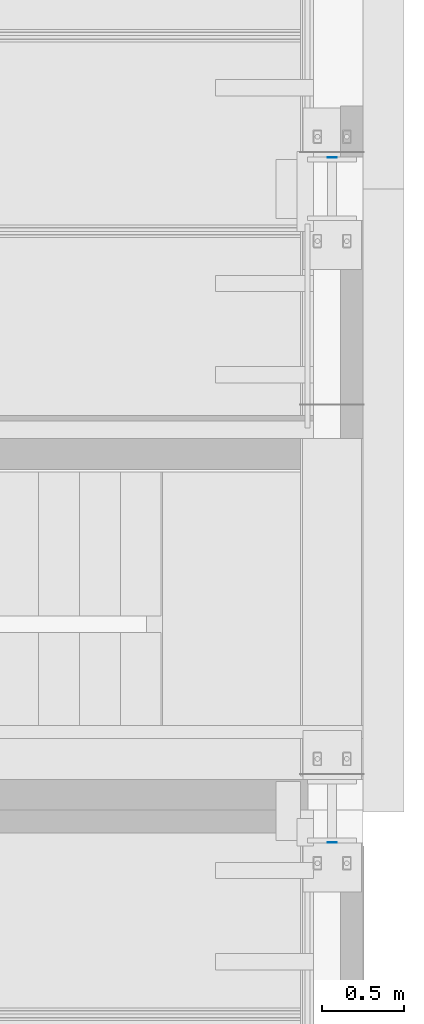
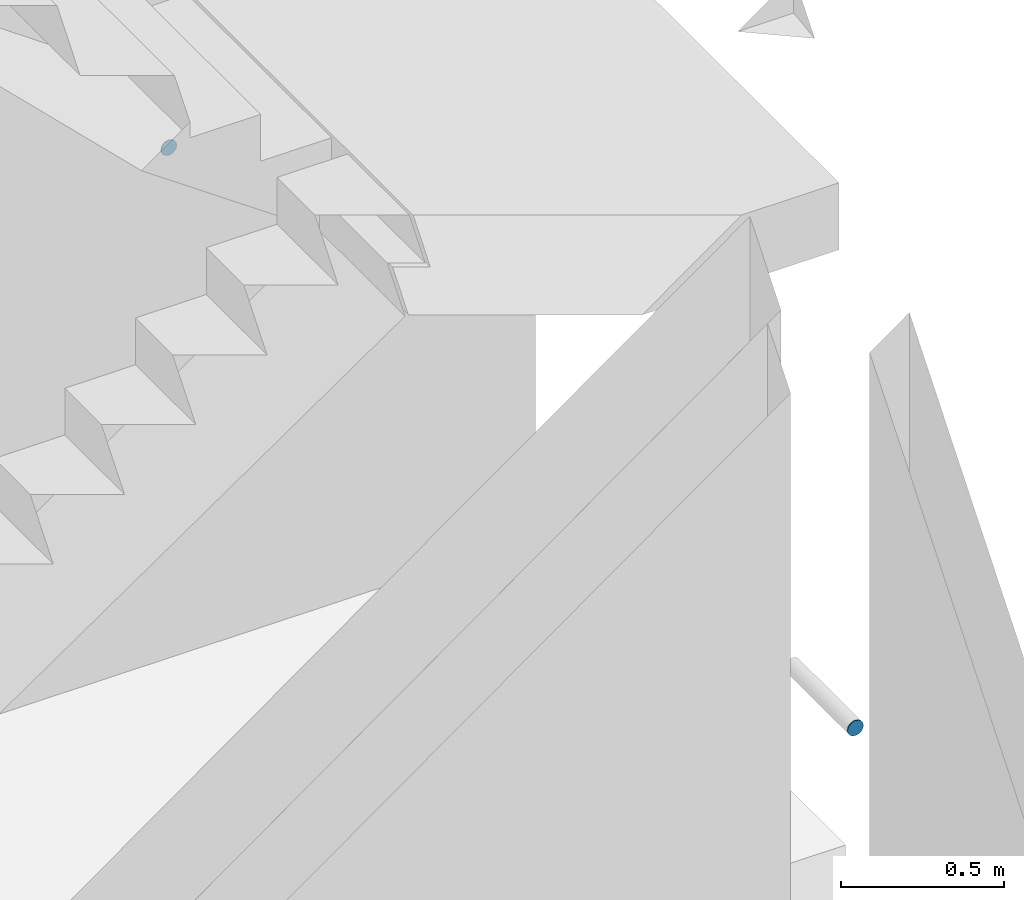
# One storey, part 60 of 230: 2 beams.
"""IFC4X3_ADD2 building model written with IfcOpenShell, lengths in millimetres."""

import ifcopenshell
import ifcopenshell.guid

model = None  # the IFC model being written
_history = None  # IfcOwnerHistory: only IFC2X3 demands one
_inside = {}  # id of a spatial element -> (the spatial element, [elements in it])
_under = {}  # id of a project, library or spatial element -> (it, [spatial elements below it])
_declared = {}  # id of a project -> (the project, [libraries it declares])
_typed = {}  # id of a type object -> (the type object, [elements of that type])
_made_of = {}  # id of a material, layer set ... -> (it, [elements and type objects made of it])


def new_model(schema):
    """Start an empty IFC model of exactly this schema.

    Asked for "IFC4X3", IfcOpenShell would pick the latest addendum, in which some entities
    have other attributes; the version numbers below select the first issue.
    IFC2X3 requires an IfcOwnerHistory on every rooted entity: one is made here for all.
    """
    global model, _history
    if schema == "IFC4X3":
        model = ifcopenshell.file(schema_version=(4, 3, 0, 0))
    else:
        model = ifcopenshell.file(schema=schema)
    _inside.clear()
    _under.clear()
    _declared.clear()
    _typed.clear()
    _made_of.clear()
    _history = None
    if model.schema == "IFC2X3":
        org = make("IfcOrganization", Name="unknown")
        user = make(
            "IfcPersonAndOrganization",
            ThePerson=make("IfcPerson", FamilyName="unknown"),
            TheOrganization=org,
        )
        app = make(
            "IfcApplication",
            ApplicationDeveloper=org,
            Version="unknown",
            ApplicationFullName="unknown",
            ApplicationIdentifier="unknown",
        )
        _history = make(
            "IfcOwnerHistory",
            OwningUser=user,
            OwningApplication=app,
            ChangeAction="ADDED",
            CreationDate=0,
        )
    return model


def make(cls, **values):
    """One entity of the class cls with the attributes given. An attribute that is None is left unset."""
    return model.create_entity(
        cls, **{name: value for name, value in values.items() if value is not None}
    )


def rooted(cls, **values):
    """An entity with a GlobalId (a new one), such as an element, a storey or a relation."""
    return make(cls, GlobalId=ifcopenshell.guid.new(), OwnerHistory=_history, **values)


def si_unit(unit_type, name, prefix=None):
    """IfcSIUnit, for example si_unit("LENGTHUNIT", "METRE", prefix="MILLI")."""
    return make("IfcSIUnit", UnitType=unit_type, Prefix=prefix, Name=name)


def assignment(units):
    """IfcUnitAssignment: the units of a project."""
    return None if units is None else make("IfcUnitAssignment", Units=units)


def point(xyz):
    """IfcCartesianPoint."""
    return None if xyz is None else make("IfcCartesianPoint", Coordinates=xyz)


def direction(xyz):
    """IfcDirection."""
    return None if xyz is None else make("IfcDirection", DirectionRatios=xyz)


def frame(location, z_axis=None, x_axis=None):
    """IfcAxis2Placement3D, a coordinate frame: its origin and axes. An axis left out is left unset."""
    return make(
        "IfcAxis2Placement3D",
        Location=point(location),
        Axis=direction(z_axis),
        RefDirection=direction(x_axis),
    )


def origin_with_axes():
    """The frame at (0, 0, 0) with the z axis (0, 0, 1) and the x axis (1, 0, 0) written out."""
    return frame((0.0, 0.0, 0.0), z_axis=(0.0, 0.0, 1.0), x_axis=(1.0, 0.0, 0.0))


def place(relative_to, where):
    """IfcLocalPlacement: puts the frame where relative to a parent placement (None: the world)."""
    return make(
        "IfcLocalPlacement", PlacementRelTo=relative_to, RelativePlacement=where
    )


def context(
    kind, dimensions, precision=None, world=None, true_north=None, identifier=None
):
    """IfcGeometricRepresentationContext, for example the 3D "Model" context."""
    return make(
        "IfcGeometricRepresentationContext",
        ContextIdentifier=identifier,
        ContextType=kind,
        CoordinateSpaceDimension=dimensions,
        Precision=precision,
        WorldCoordinateSystem=world,
        TrueNorth=true_north,
    )


def subcontext(parent, identifier, kind, view, scale=None):
    """IfcGeometricRepresentationSubContext, for example "Body" below "Model"."""
    return make(
        "IfcGeometricRepresentationSubContext",
        ContextIdentifier=identifier,
        ContextType=kind,
        ParentContext=parent,
        TargetScale=scale,
        TargetView=view,
    )


def project(units=None, contexts=None):
    """IfcProject with its units and contexts."""
    return rooted(
        "IfcProject",
        Name="project",
        RepresentationContexts=contexts,
        UnitsInContext=assignment(units),
    )


def spatial(cls, under=None, at=None, **own):
    """A site, building, storey or space (cls), placed at a placement, below another one or the project."""
    s = rooted(cls, ObjectPlacement=at, **own)
    if under is not None:
        _under.setdefault(under.id(), (under, []))[1].append(s)
    return s


def point_list(points):
    """IfcCartesianPointList2D or 3D."""
    cls = (
        "IfcCartesianPointList2D" if len(points[0]) == 2 else "IfcCartesianPointList3D"
    )
    return make(cls, CoordList=points)


def indexed_curve(points, segments=None, self_intersect=None):
    """IfcIndexedPolyCurve: lines and arcs through numbered points (the first is 1)."""
    return make(
        "IfcIndexedPolyCurve",
        Points=point_list(points),
        Segments=segments,
        SelfIntersect=self_intersect,
    )


def outline(outer, holes=None, kind="AREA"):
    """IfcArbitraryClosedProfileDef: a profile drawn as a closed curve; with holes, ...WithVoids."""
    if holes is None:
        return make("IfcArbitraryClosedProfileDef", ProfileType=kind, OuterCurve=outer)
    return make(
        "IfcArbitraryProfileDefWithVoids",
        ProfileType=kind,
        OuterCurve=outer,
        InnerCurves=holes,
    )


def extrude(swept, where, along, depth):
    """IfcExtrudedAreaSolid: the profile swept, set in the frame where, extruded along a direction by depth."""
    return make(
        "IfcExtrudedAreaSolid",
        SweptArea=swept,
        Position=where,
        ExtrudedDirection=direction(along),
        Depth=depth,
    )


def shape(context_of_items, identifier, shape_type, items):
    """IfcShapeRepresentation: the items that make up one representation, for example the "Body"."""
    return make(
        "IfcShapeRepresentation",
        ContextOfItems=context_of_items,
        RepresentationIdentifier=identifier,
        RepresentationType=shape_type,
        Items=items,
    )


def material(Name=None, Category=None):
    """IfcMaterial."""
    return make("IfcMaterial", Name=Name, Category=Category)


def made_of(thing, what):
    """Note that an element or type object is made of a material, layer set ...; save() writes the relation."""
    if what is not None:
        _made_of.setdefault(what.id(), (what, []))[1].append(thing)
    return thing


def element(
    cls,
    number,
    at=None,
    inside=None,
    cuts=None,
    type_object=None,
    material=None,
    context=None,
    identifier="Body",
    shape_type=None,
    held_by="IfcProductDefinitionShape",
    body=None,
    shapes=None,
    **own,
):
    """One element of the class cls, such as IfcWall. Its Tag is "e" and its number.

    at: its placement. inside: the storey or other place that contains it. cuts: it is an
    opening in that element (IfcRelVoidsElement). A single representation is given by context,
    identifier, shape_type and body (its items); several are given by shapes. held_by: the class
    of the entity that holds the representations. save() writes the other relations.
    """
    e = rooted(cls, Tag="e%d" % number, ObjectPlacement=at, **own)
    if body is not None:
        shapes = [shape(context, identifier, shape_type, body)]
    if shapes is not None:
        e.Representation = make(held_by, Representations=shapes)
    if inside is not None:
        _inside.setdefault(inside.id(), (inside, []))[1].append(e)
    if cuts is not None:
        rooted(
            "IfcRelVoidsElement", RelatingBuildingElement=cuts, RelatedOpeningElement=e
        )
    if type_object is not None:
        _typed.setdefault(type_object.id(), (type_object, []))[1].append(e)
    return made_of(e, material)


def aggregate(whole, parts):
    """IfcRelAggregates: a whole, such as a stair, and the parts it consists of."""
    return rooted("IfcRelAggregates", RelatingObject=whole, RelatedObjects=parts)


def save(model, path):
    """Write the relations noted so far, then the file.

    IfcRelAggregates (storeys below a building ...), IfcRelContainedInSpatialStructure (elements
    in a storey), IfcRelDefinesByType, IfcRelAssociatesMaterial and IfcRelDeclares: one each for
    every whole, place, type object, material and project.
    """
    for whole, parts in _under.values():
        aggregate(whole, parts)
    for where, things in _inside.values():
        rooted(
            "IfcRelContainedInSpatialStructure",
            RelatedElements=things,
            RelatingStructure=where,
        )
    for kind, things in _typed.values():
        rooted("IfcRelDefinesByType", RelatedObjects=things, RelatingType=kind)
    for what, things in _made_of.values():
        rooted("IfcRelAssociatesMaterial", RelatedObjects=things, RelatingMaterial=what)
    for by, libraries in _declared.values():
        rooted("IfcRelDeclares", RelatingContext=by, RelatedDefinitions=libraries)
    model.write(path)


model = new_model("IFC4X3_ADD2")

# Units and contexts
model_context = context("Model", 3, precision=1e-05, world=origin_with_axes(), true_north=direction((0.0, 1.0)))
body_context = subcontext(model_context, "Body", "Model", "MODEL_VIEW")
ifc_project = project(units=[si_unit("LENGTHUNIT", "METRE", prefix="MILLI"), si_unit("AREAUNIT", "SQUARE_METRE"), si_unit("VOLUMEUNIT", "CUBIC_METRE"), si_unit("PLANEANGLEUNIT", "RADIAN"), si_unit("TIMEUNIT", "SECOND"), si_unit("MASSUNIT", "GRAM")], contexts=[model_context])

# Site, building, storey
site_placement = place(None, origin_with_axes())
site = spatial("IfcSite", under=ifc_project, at=site_placement, Name="Site", CompositionType="ELEMENT")
building_placement = place(site_placement, origin_with_axes())
building = spatial("IfcBuilding", under=site, at=building_placement, Name="IFC Building Story")
storey_placement = place(building_placement, origin_with_axes())
storey = spatial("IfcBuildingStorey", under=building, at=storey_placement, Name="ETAGE 00 (0)", Elevation=0.0)

# Beams
ifc_material = material(Name="STEEL/Accessory 22919")
beam_1_placement = place(storey_placement, frame((48311.18863623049, 21814.9996109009, 860.0000000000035), z_axis=(0.0, -1.0, 0.0), x_axis=(-0.5555702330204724, 0.0, 0.8314696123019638)))
element("IfcBeam", 1, at=beam_1_placement, inside=storey, material=ifc_material, Name="TA4", ObjectType="D56", context=body_context, shape_type="SweptSolid", body=[
    extrude(outline(indexed_curve([(23.28114914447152, 15.55596652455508), (27.46198785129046, 5.462529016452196), (27.46198785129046, -5.462529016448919), (23.28114914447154, -15.55596652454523), (15.55596652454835, -23.28114914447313), (5.462529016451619, -27.46198785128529), (-5.462529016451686, -27.46198785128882), (-15.55596652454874, -23.28114914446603), (-23.2811491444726, -15.55596652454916), (-27.46198785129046, -5.462529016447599), (-27.46198785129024, 5.462529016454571), (-23.28114914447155, 15.55596652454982), (-15.55596652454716, 23.28114914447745), (-5.462529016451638, 27.46198785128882), (5.462529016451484, 27.46198785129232), (15.55596652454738, 23.28114914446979), (23.28114914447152, 15.55596652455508)])), origin_with_axes(), (0.0, 0.0, 1.0), 3.000000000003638),
])
beam_2_placement = place(storey_placement, frame((48311.18863623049, 17612.99961090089, 1239.999999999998), z_axis=(0.0, -1.0, 0.0), x_axis=(-0.1950903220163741, 0.0, 0.9807852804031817)))
element("IfcBeam", 2, at=beam_2_placement, inside=storey, material=ifc_material, Name="TA4", ObjectType="D56", context=body_context, shape_type="SweptSolid", body=[
    extrude(outline(indexed_curve([(23.28114914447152, 15.55596652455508), (27.46198785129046, 5.462529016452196), (27.46198785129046, -5.462529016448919), (23.28114914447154, -15.55596652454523), (15.55596652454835, -23.28114914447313), (5.462529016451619, -27.46198785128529), (-5.462529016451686, -27.46198785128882), (-15.55596652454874, -23.28114914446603), (-23.2811491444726, -15.55596652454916), (-27.46198785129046, -5.462529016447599), (-27.46198785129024, 5.462529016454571), (-23.28114914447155, 15.55596652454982), (-15.55596652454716, 23.28114914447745), (-5.462529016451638, 27.46198785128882), (5.462529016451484, 27.46198785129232), (15.55596652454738, 23.28114914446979), (23.28114914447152, 15.55596652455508)])), origin_with_axes(), (0.0, 0.0, 1.0), 2.999999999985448),
])

save(model, "model.ifc")
